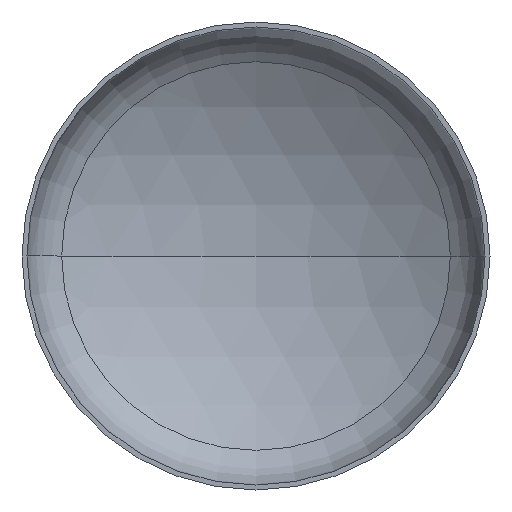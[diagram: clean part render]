
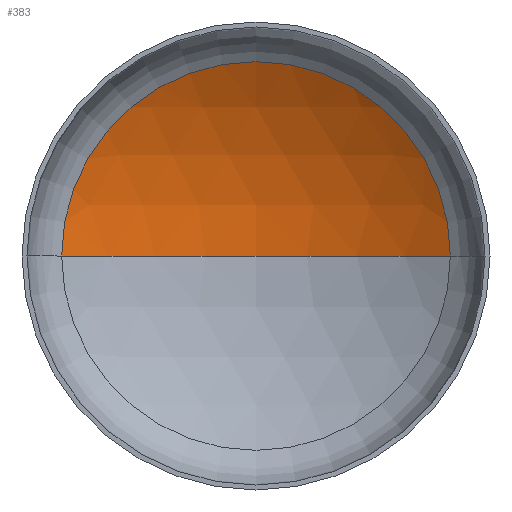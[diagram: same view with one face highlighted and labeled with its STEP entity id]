
A CAD part, front view. The second image highlights one B-rep face of the part: STEP entity #383.
In plain terms, the highlighted spherical face has radius 6000 mm.
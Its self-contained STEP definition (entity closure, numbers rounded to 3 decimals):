
#23 = ORIENTED_EDGE ( 'NONE', *, *, #124, .T. ) ;
#64 = AXIS2_PLACEMENT_3D ( 'NONE', #372, #373, #225 ) ;
#65 = AXIS2_PLACEMENT_3D ( 'NONE', #354, #371, #171 ) ;
#68 = AXIS2_PLACEMENT_3D ( 'NONE', #198, #215, #201 ) ;
#85 = VERTEX_POINT ( 'NONE', #252 ) ;
#93 = CARTESIAN_POINT ( 'NONE',  ( 3114.551, 1107.2, 0. ) ) ;
#122 = EDGE_CURVE ( 'NONE', #289, #146, #267, .T. ) ;
#124 = EDGE_CURVE ( 'NONE', #85, #289, #204, .T. ) ;
#127 = EDGE_CURVE ( 'NONE', #85, #146, #375, .T. ) ;
#128 = EDGE_LOOP ( 'NONE', ( #397, #23, #153 ) ) ;
#146 = VERTEX_POINT ( 'NONE', #245 ) ;
#153 = ORIENTED_EDGE ( 'NONE', *, *, #122, .T. ) ;
#171 = DIRECTION ( 'NONE',  ( -1., 0., 0. ) ) ;
#176 = AXIS2_PLACEMENT_3D ( 'NONE', #343, #297, #258 ) ;
#198 = CARTESIAN_POINT ( 'NONE',  ( 0., 1107.2, 0. ) ) ;
#201 = DIRECTION ( 'NONE',  ( 1., 0., 0. ) ) ;
#204 = CIRCLE ( 'NONE', #65, 6000. ) ;
#215 = DIRECTION ( 'NONE',  ( 0., -1., 0. ) ) ;
#225 = DIRECTION ( 'NONE',  ( 1., 0., 0. ) ) ;
#245 = CARTESIAN_POINT ( 'NONE',  ( -3114.551, 1107.2, 0. ) ) ;
#252 = CARTESIAN_POINT ( 'NONE',  ( 0., 1978.889, 0. ) ) ;
#258 = DIRECTION ( 'NONE',  ( -1., 0., 0. ) ) ;
#267 = CIRCLE ( 'NONE', #68, 3114.551 ) ;
#289 = VERTEX_POINT ( 'NONE', #93 ) ;
#297 = DIRECTION ( 'NONE',  ( 0., 0., -1. ) ) ;
#332 = FACE_OUTER_BOUND ( 'NONE', #128, .T. ) ;
#343 = CARTESIAN_POINT ( 'NONE',  ( 0., -4021.111, 0. ) ) ;
#354 = CARTESIAN_POINT ( 'NONE',  ( 0., -4021.111, 0. ) ) ;
#371 = DIRECTION ( 'NONE',  ( 0., 0., -1. ) ) ;
#372 = CARTESIAN_POINT ( 'NONE',  ( 0., -4021.111, 0. ) ) ;
#373 = DIRECTION ( 'NONE',  ( 0., 0., 1. ) ) ;
#375 = CIRCLE ( 'NONE', #64, 6000. ) ;
#383 = ADVANCED_FACE ( 'NONE', ( #332 ), #386, .F. ) ;
#386 = SPHERICAL_SURFACE ( 'NONE', #176, 6000. ) ;
#397 = ORIENTED_EDGE ( 'NONE', *, *, #127, .F. ) ;
